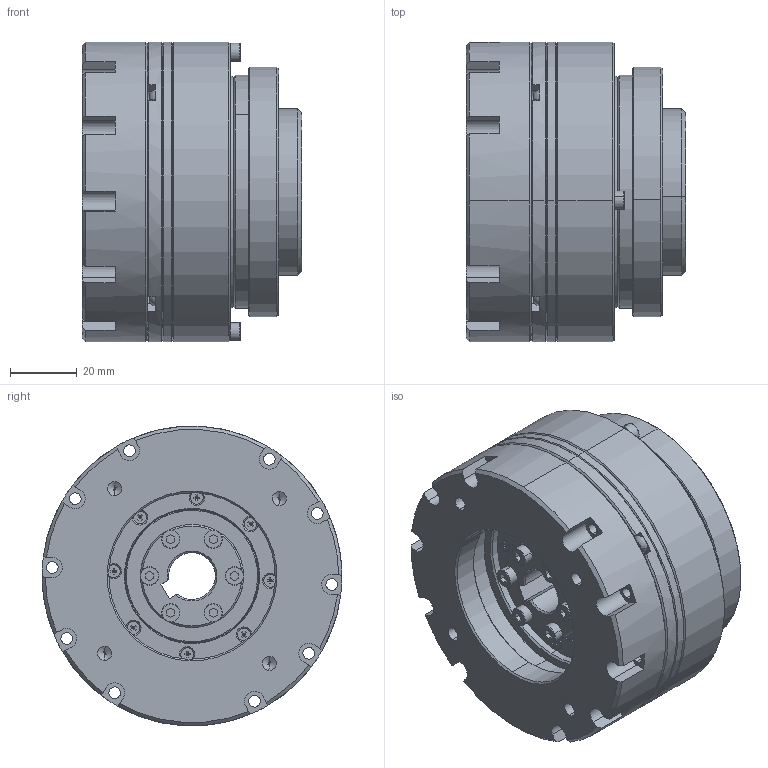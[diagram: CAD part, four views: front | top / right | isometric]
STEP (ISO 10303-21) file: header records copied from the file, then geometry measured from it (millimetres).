
FILE_DESCRIPTION (( 'STEP AP214' ), '1' );
FILE_NAME ('LHSG-20-XXX-RDP-14-30-50-70-M5.step', '2022-08-03T03:58:26', ( 'Sysceo.com' ), ( '' ), 'SwSTEP 2.0', 'SolidWorks 2020', '' );
FILE_SCHEMA (( 'AUTOMOTIVE_DESIGN' ));
Length unit declared in the file: millimetre
Products named in the file (1): LHSG-20-XXX-RDP-14-30-50-70-M5
Bounding box: 66 x 90 x 89.83 mm (x, y, z)
Volume: 251290.4 mm3; surface area: 151136 mm2
Topology: 93 solids, 93 shells, 1935 faces, 4624 edges, 2694 vertices
Faces by surface type: cylinder 635, plane 568, cone 400, sphere 192, torus 140
Entity records: 76043 total; most frequent: DIRECTION 10218, CARTESIAN_POINT 9346, ORIENTED_EDGE 8416, AXIS2_PLACEMENT_3D 4218, EDGE_CURVE 4208, VERTEX_POINT 2602, EDGE_LOOP 2348, CIRCLE 2282
